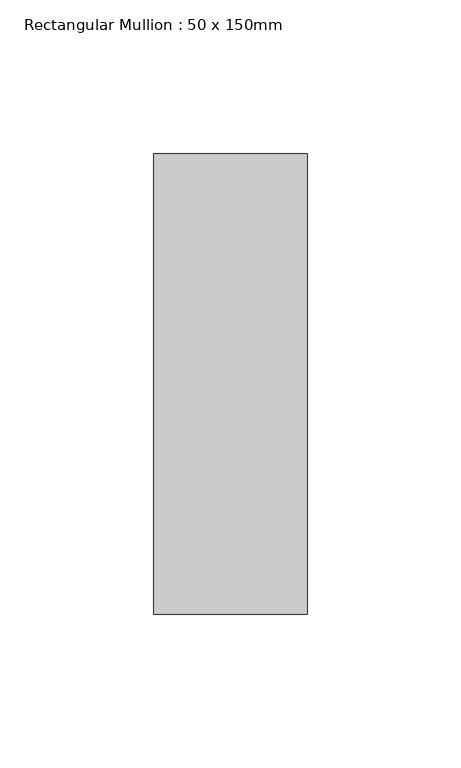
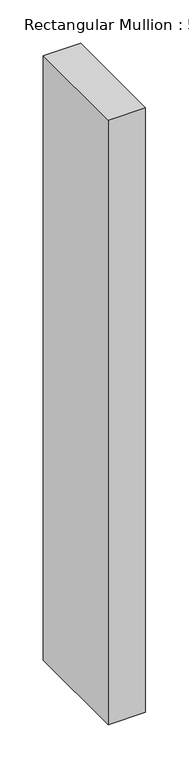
"""IFC4 building model written with IfcOpenShell, lengths in millimetres: member geometry, Rectangular Mullion : 50 x 150mm."""

from ifc_helpers import new_model, si_unit, frame, origin, place, context, project, spatial, polyline, outline, extrude, source, transform, mapped, element, save


def rectangular_mullion_50_x_150mm_ca17d0d0(model_context):
    return source(origin(), model_context, "Body", "SweptSolid", [
        extrude(outline(polyline([(25.0, 75.0), (25.0, -75.0), (-25.0, -75.0), (-25.0, 75.0), (25.0, 75.0)])), frame((0.0, 0.0, -854.1575), z_axis=(0.0, 0.0, 1.0), x_axis=(1.0, 0.0, 0.0)), (0.0, 0.0, 1.0), 854.1575),
    ])


if __name__ == "__main__":
    model = new_model("IFC4")
    model_context = context("Model", 3, world=origin())
    ifc_project = project(units=[si_unit("LENGTHUNIT", "METRE", prefix="MILLI")], contexts=[model_context])
    site = spatial("IfcSite", under=ifc_project)
    building = spatial("IfcBuilding", under=site)
    placement = place(None, origin())
    rectangular_mullion_50_x_150mm_shape = rectangular_mullion_50_x_150mm_ca17d0d0(model_context)
    element("IfcMember", 1, ObjectType="Rectangular Mullion : 50 x 150mm", at=placement, inside=building, context=model_context, shape_type="MappedRepresentation", body=[
        mapped(rectangular_mullion_50_x_150mm_shape, transform((0.0, 0.0, 0.0), x_axis=(1.0, 0.0, 0.0), y_axis=(0.0, 1.0, 0.0), z_axis=(0.0, 0.0, 1.0))),
    ])
    save(model, "model.ifc")
